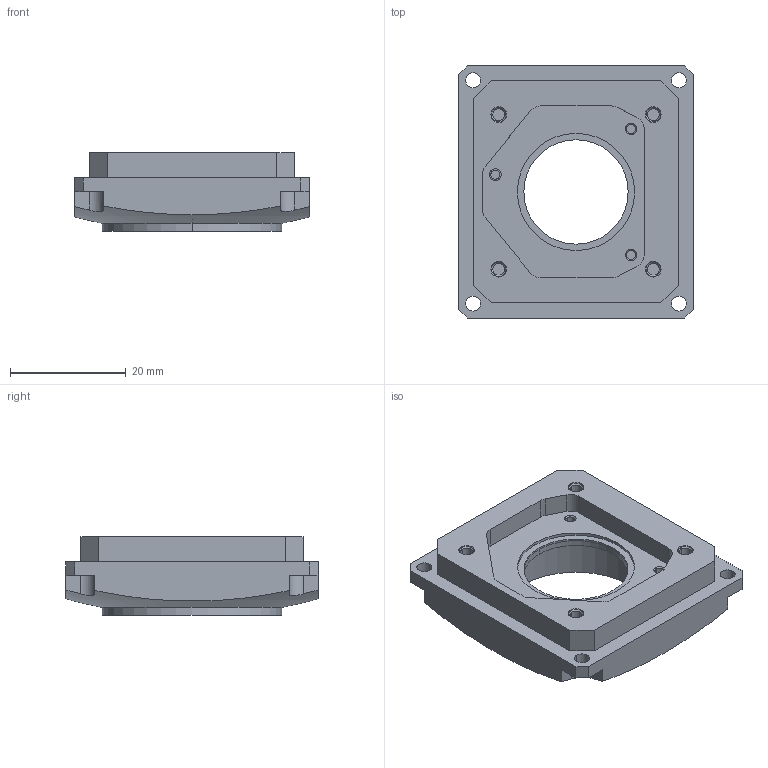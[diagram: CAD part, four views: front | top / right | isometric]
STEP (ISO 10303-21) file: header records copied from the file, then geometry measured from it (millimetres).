
FILE_DESCRIPTION(/* description */ ('VariCAD 2009-1.04 AP-203'),/* implementation_level */ '2;1');
FILE_NAME(/* name */ '0353-12-29',/* time_stamp */ '2009-11-19T16:26:22-07:00',/* author */ (''),/* organization */ (''),/* preprocessor_version */ 'ST-DEVELOPER v12',/* originating_system */ 'VariCAD 2009-1.04; kernel version (20080921)',/* authorisation */ '');
FILE_SCHEMA (('CONFIG_CONTROL_DESIGN'));
Length unit declared in the file: millimetre
Products named in the file (1): Part
Bounding box: 40.5 x 43.5 x 13.62 mm (x, y, z)
Volume: 11857.6 mm3; surface area: 6783.2 mm2
Topology: 8 solids, 8 shells, 175 faces, 402 edges, 256 vertices
Faces by surface type: cylinder 88, plane 65, cone 20, sphere 2
Entity records: 5164 total; most frequent: CARTESIAN_POINT 952, DIRECTION 932, ORIENTED_EDGE 804, EDGE_CURVE 402, AXIS2_PLACEMENT_3D 364, VERTEX_POINT 256, EDGE_LOOP 212, LINE 204
